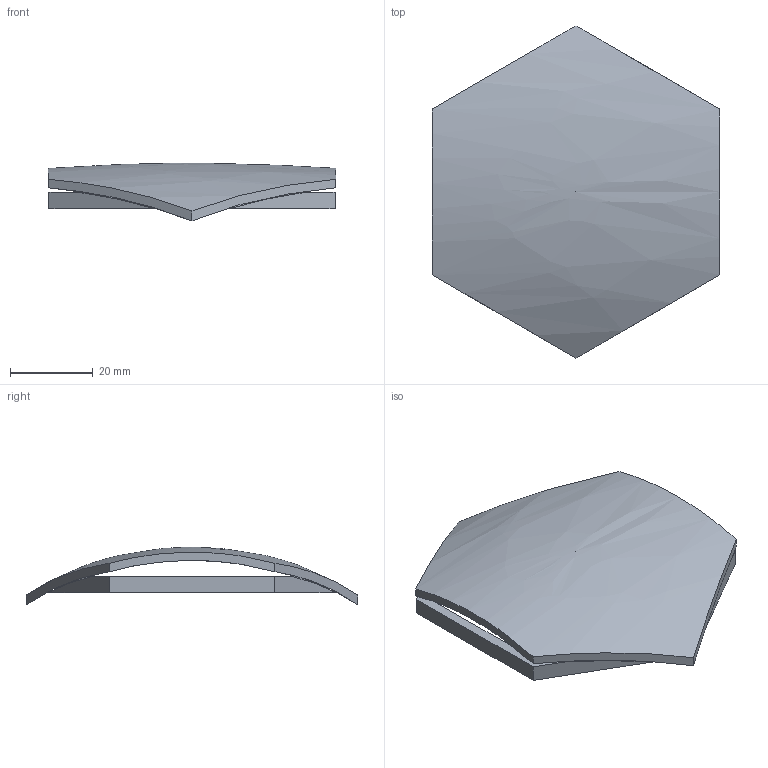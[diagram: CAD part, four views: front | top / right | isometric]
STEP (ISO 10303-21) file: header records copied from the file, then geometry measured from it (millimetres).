
FILE_DESCRIPTION(('FreeCAD Model'),'2;1');
FILE_NAME('Open CASCADE Shape Model','2026-10-26T00:06:28',('FreeCAD'),( 'FreeCAD'),'Open CASCADE STEP processor 8.0','FreeCAD','Unknown');
FILE_SCHEMA(('AUTOMOTIVE_DESIGN { 1 0 10303 214 1 1 1 1 }'));
Length unit declared in the file: millimetre
Products named in the file (1): Open CASCADE STEP translator 8.0 2
Bounding box: 69.28 x 80 x 13.86 mm (x, y, z)
Volume: 10142.3 mm3; surface area: 11445.7 mm2
Topology: 3 solids, 3 shells, 28 faces, 72 edges, 48 vertices
Faces by surface type: plane 22, bspline 6
Entity records: 1508 total; most frequent: CARTESIAN_POINT 913, ORIENTED_EDGE 140, DIRECTION 84, EDGE_CURVE 70, VERTEX_POINT 48, LINE 38, VECTOR 38, B_SPLINE_CURVE_WITH_KNOTS 30
